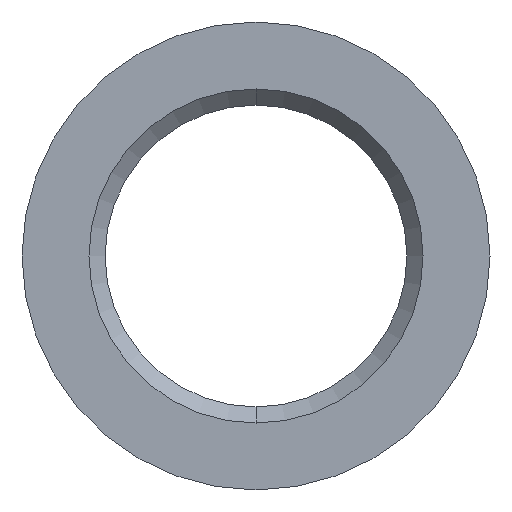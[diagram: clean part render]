
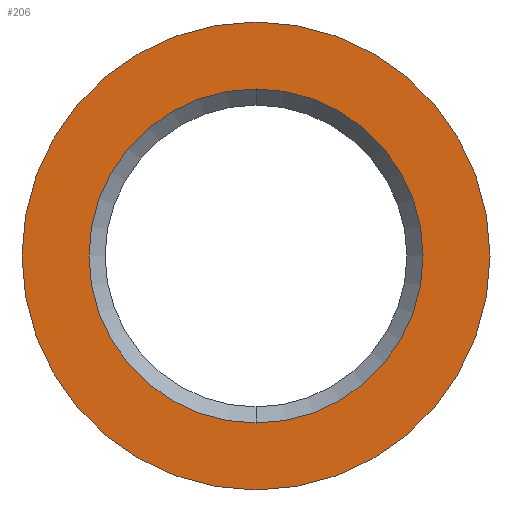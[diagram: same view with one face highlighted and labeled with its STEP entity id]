
A CAD part, left-side view. The second image highlights one B-rep face of the part: STEP entity #206.
In plain terms, the highlighted planar face has unit normal (-1, 0, 0).
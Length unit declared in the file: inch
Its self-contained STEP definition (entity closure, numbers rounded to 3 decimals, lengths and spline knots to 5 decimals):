
#12 = EDGE_CURVE ( 'NONE', #69, #295, #20, .T. ) ;
#14 = DIRECTION ( 'NONE',  ( 0., 0., 1. ) ) ;
#16 = CIRCLE ( 'NONE', #488, 0.145 ) ;
#20 = CIRCLE ( 'NONE', #369, 0.145 ) ;
#22 = CARTESIAN_POINT ( 'NONE',  ( -2.52524, 3.75748, 0. ) ) ;
#41 = EDGE_LOOP ( 'NONE', ( #214, #210 ) ) ;
#68 = DIRECTION ( 'NONE',  ( -1., 0., 0. ) ) ;
#69 = VERTEX_POINT ( 'NONE', #300 ) ;
#86 = CARTESIAN_POINT ( 'NONE',  ( -2.52524, 3.75748, -0.1035 ) ) ;
#95 = DIRECTION ( 'NONE',  ( 1., 0., 0. ) ) ;
#97 = DIRECTION ( 'NONE',  ( 1., 0., 0. ) ) ;
#108 = EDGE_CURVE ( 'NONE', #385, #412, #124, .T. ) ;
#113 = AXIS2_PLACEMENT_3D ( 'NONE', #356, #95, #279 ) ;
#124 = CIRCLE ( 'NONE', #254, 0.1035 ) ;
#134 = AXIS2_PLACEMENT_3D ( 'NONE', #398, #97, #196 ) ;
#146 = EDGE_CURVE ( 'NONE', #295, #69, #16, .T. ) ;
#148 = PLANE ( 'NONE',  #134 ) ;
#165 = DIRECTION ( 'NONE',  ( 0., 0., 1. ) ) ;
#166 = EDGE_LOOP ( 'NONE', ( #426, #303 ) ) ;
#172 = FACE_OUTER_BOUND ( 'NONE', #41, .T. ) ;
#190 = CARTESIAN_POINT ( 'NONE',  ( -2.52524, 3.75748, 0.1035 ) ) ;
#196 = DIRECTION ( 'NONE',  ( 0., 0., -1. ) ) ;
#206 = ADVANCED_FACE ( 'NONE', ( #374, #172 ), #148, .F. ) ;
#210 = ORIENTED_EDGE ( 'NONE', *, *, #12, .T. ) ;
#214 = ORIENTED_EDGE ( 'NONE', *, *, #146, .T. ) ;
#240 = EDGE_CURVE ( 'NONE', #412, #385, #506, .T. ) ;
#254 = AXIS2_PLACEMENT_3D ( 'NONE', #449, #451, #404 ) ;
#279 = DIRECTION ( 'NONE',  ( 0., 0., -1. ) ) ;
#295 = VERTEX_POINT ( 'NONE', #493 ) ;
#300 = CARTESIAN_POINT ( 'NONE',  ( -2.52524, 3.75748, -0.145 ) ) ;
#303 = ORIENTED_EDGE ( 'NONE', *, *, #108, .T. ) ;
#356 = CARTESIAN_POINT ( 'NONE',  ( -2.52524, 3.75748, 0. ) ) ;
#369 = AXIS2_PLACEMENT_3D ( 'NONE', #22, #68, #165 ) ;
#374 = FACE_BOUND ( 'NONE', #166, .T. ) ;
#385 = VERTEX_POINT ( 'NONE', #86 ) ;
#398 = CARTESIAN_POINT ( 'NONE',  ( -2.52524, 3.75748, 0. ) ) ;
#403 = CARTESIAN_POINT ( 'NONE',  ( -2.52524, 3.75748, 0. ) ) ;
#404 = DIRECTION ( 'NONE',  ( 0., 0., -1. ) ) ;
#412 = VERTEX_POINT ( 'NONE', #190 ) ;
#426 = ORIENTED_EDGE ( 'NONE', *, *, #240, .T. ) ;
#449 = CARTESIAN_POINT ( 'NONE',  ( -2.52524, 3.75748, 0. ) ) ;
#451 = DIRECTION ( 'NONE',  ( 1., 0., 0. ) ) ;
#488 = AXIS2_PLACEMENT_3D ( 'NONE', #403, #541, #14 ) ;
#493 = CARTESIAN_POINT ( 'NONE',  ( -2.52524, 3.75748, 0.145 ) ) ;
#506 = CIRCLE ( 'NONE', #113, 0.1035 ) ;
#541 = DIRECTION ( 'NONE',  ( -1., 0., 0. ) ) ;
